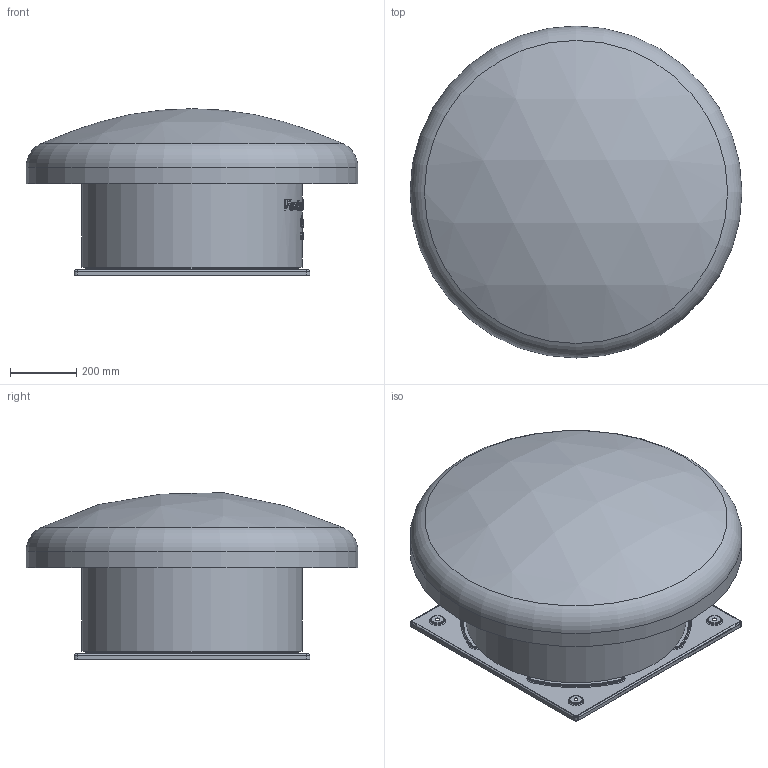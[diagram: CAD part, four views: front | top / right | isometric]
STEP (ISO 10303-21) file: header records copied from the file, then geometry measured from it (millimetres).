
FILE_DESCRIPTION(/* description */ (''),/* implementation_level */ '2;1');
FILE_NAME(/* name */ 'D:\Piotr - Dokumenty\Modele uproszczone\RF\RF X-500X\GOTOWE\RF_X_500_X SIMPLIFIED.stp',/* time_stamp */ '2021-03-09T12:55:51+01:00',/* author */ ('Piotr.Nowotniak'),/* organization */ (''),/* preprocessor_version */ 'ST-DEVELOPER v18',/* originating_system */ 'Autodesk Inventor 2020',/* authorisation */ '');
FILE_SCHEMA (('AUTOMOTIVE_DESIGN { 1 0 10303 214 3 1 1 }'));
Length unit declared in the file: millimetre
Products named in the file (1): RF_X_500_X SIMPLIFIED
Bounding box: 1000 x 1000 x 501.7 mm (x, y, z)
Volume: 217416475.6 mm3; surface area: 3220762.1 mm2
Topology: 1 solids, 1 shells, 775 faces, 2086 edges, 1373 vertices
Faces by surface type: bspline 350, plane 228, torus 84, cylinder 70, cone 42, sphere 1
Full cylindrical faces by diameter (mm): 6.5 x8, 12 x4, 460 x1, 665 x1, 1000 x1
Entity records: 34173 total; most frequent: CARTESIAN_POINT 15556, ORIENTED_EDGE 4172, DIRECTION 2969, EDGE_CURVE 2086, VERTEX_POINT 1373, AXIS2_PLACEMENT_3D 1149, EDGE_LOOP 859, STYLED_ITEM 776
